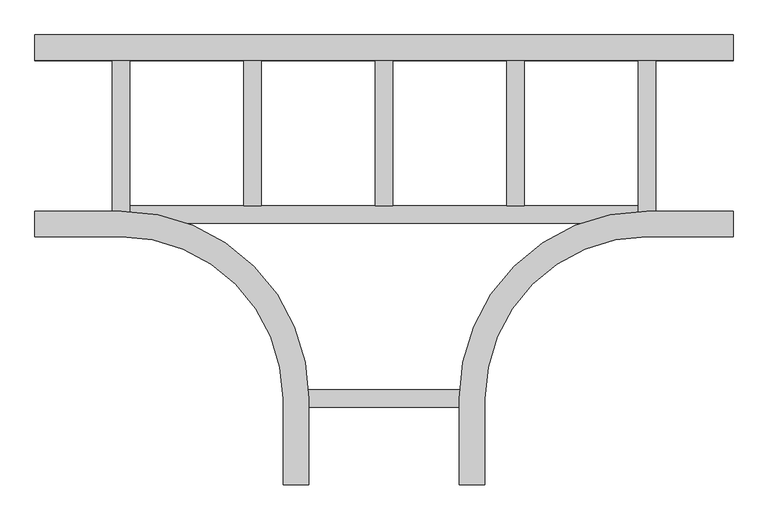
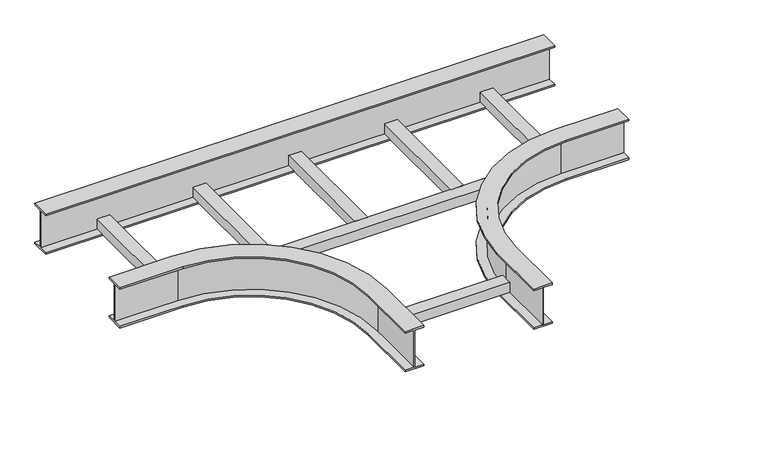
"""IFC4 building model written with IfcOpenShell, lengths in millimetres: cable carrier fitting geometry, TEI_Horizontal Tee-Basortrav : Basortrav TEI-12."""

from ifc_helpers import new_model, si_unit, frame, origin, place, context, project, spatial, polyline, circle_curve, outline, extrude, source, transform, mapped, element, save
from ifc_brep_helpers import plane_surface, cylinder_surface, revolved_surface, advanced_brep


def cable_carrier_fitting_838a4757(model_context):
    return source(origin(), model_context, "Body", "SolidModel", [
        advanced_brep(
        [(-607.2, -175.5115599, 46.8), (-607.2, -175.5115599, 50.8), (-607.2, -131.0115599, 50.8), (-607.2, -131.0115599, 46.8), (-607.2, -152.4, 46.8), (-607.2, -152.4, -46.8), (-607.2, -131.0115599, -46.8), (-607.2, -131.0115599, -50.8), (-607.2, -175.5115599, -50.8), (-607.2, -175.5115599, -46.8), (-607.2, -154.4, -46.8), (-607.2, -154.4, 46.8), (-175.5115599, -607.2, 46.8), (-154.4, -607.2, 46.8), (-154.4, -607.2, -46.8), (-175.5115599, -607.2, -46.8), (-175.5115599, -607.2, -50.8), (-131.0115599, -607.2, -50.8), (-131.0115599, -607.2, -46.8), (-152.4, -607.2, -46.8), (-152.4, -607.2, 46.8), (-131.0115599, -607.2, 46.8), (-131.0115599, -607.2, 50.8), (-175.5115599, -607.2, 50.8), (-457.2, -175.5115599, 46.8), (-457.2, -175.5115599, 50.8), (-175.5115599, -457.2, 50.8), (-131.0115599, -457.2, 50.8), (-457.2, -131.0115599, 50.8), (-457.2, -131.0115599, 46.8), (-131.0115599, -457.2, 46.8), (-152.4, -457.2, 46.8), (-457.2, -152.4, 46.8), (-457.2, -152.4, -46.8), (-152.4, -457.2, -46.8), (-131.0115599, -457.2, -46.8), (-457.2, -131.0115599, -46.8), (-457.2, -131.0115599, -50.8), (-131.0115599, -457.2, -50.8), (-175.5115599, -457.2, -50.8), (-457.2, -175.5115599, -50.8), (-457.2, -175.5115599, -46.8), (-175.5115599, -457.2, -46.8), (-154.4, -457.2, -46.8), (-457.2, -154.4, -46.8), (-457.2, -154.4, 46.8), (-154.4, -457.2, 46.8), (-175.5115599, -457.2, 46.8)],
        [
            (0, 1),
            (1, 2),
            (2, 3),
            (3, 4),
            (4, 5),
            (5, 6),
            (6, 7),
            (7, 8),
            (8, 9),
            (9, 10),
            (10, 11),
            (11, 0),
            (12, 13),
            (13, 14),
            (14, 15),
            (15, 16),
            (16, 17),
            (17, 18),
            (18, 19),
            (19, 20),
            (20, 21),
            (21, 22),
            (22, 23),
            (23, 12),
            (0, 24),
            (24, 25),
            (25, 1),
            (25, 26, circle_curve(frame((-457.2, -457.2, 50.8), z_axis=(0.0, 0.0, -1.0), x_axis=(0.0, 1.0, 0.0)), 281.6884401)),
            (26, 23),
            (22, 27),
            (27, 28, circle_curve(frame((-457.2, -457.2, 50.8), z_axis=(0.0, 0.0, 1.0), x_axis=(0.0, 1.0, 0.0)), 326.1884401)),
            (28, 2),
            (28, 29),
            (29, 3),
            (29, 30, circle_curve(frame((-457.2, -457.2, 46.8), z_axis=(0.0, 0.0, -1.0), x_axis=(0.0, 1.0, 0.0)), 326.1884401)),
            (30, 21),
            (20, 31),
            (31, 32, circle_curve(frame((-457.2, -457.2, 46.8), z_axis=(0.0, 0.0, 1.0), x_axis=(0.0, 1.0, 0.0)), 304.8)),
            (32, 4),
            (32, 33),
            (33, 5),
            (33, 34, circle_curve(frame((-457.2, -457.2, -46.8), z_axis=(0.0, 0.0, -1.0), x_axis=(0.0, 1.0, 0.0)), 304.8)),
            (34, 19),
            (18, 35),
            (35, 36, circle_curve(frame((-457.2, -457.2, -46.8), z_axis=(0.0, 0.0, 1.0), x_axis=(0.0, 1.0, 0.0)), 326.1884401)),
            (36, 6),
            (36, 37),
            (37, 7),
            (37, 38, circle_curve(frame((-457.2, -457.2, -50.8), z_axis=(0.0, 0.0, -1.0), x_axis=(0.0, 1.0, 0.0)), 326.1884401)),
            (38, 17),
            (16, 39),
            (39, 40, circle_curve(frame((-457.2, -457.2, -50.8), z_axis=(0.0, 0.0, 1.0), x_axis=(0.0, 1.0, 0.0)), 281.6884401)),
            (40, 8),
            (40, 41),
            (41, 9),
            (41, 42, circle_curve(frame((-457.2, -457.2, -46.8), z_axis=(0.0, 0.0, -1.0), x_axis=(0.0, 1.0, 0.0)), 281.6884401)),
            (42, 15),
            (14, 43),
            (43, 44, circle_curve(frame((-457.2, -457.2, -46.8), z_axis=(0.0, 0.0, 1.0), x_axis=(0.0, 1.0, 0.0)), 302.8)),
            (44, 10),
            (44, 45),
            (45, 11),
            (45, 46, circle_curve(frame((-457.2, -457.2, 46.8), z_axis=(0.0, 0.0, -1.0), x_axis=(0.0, 1.0, 0.0)), 302.8)),
            (46, 13),
            (12, 47),
            (47, 24, circle_curve(frame((-457.2, -457.2, 46.8), z_axis=(0.0, 0.0, 1.0), x_axis=(0.0, 1.0, 0.0)), 281.6884401)),
            (47, 26),
            (27, 30),
            (31, 34),
            (35, 38),
            (39, 42),
            (43, 46),
        ],
        [
            plane_surface(frame((-607.2, -152.4, 50.8), z_axis=(-1.0, 0.0, 0.0), x_axis=(0.0, 0.0, 1.0))),
            plane_surface(frame((-152.4, -607.2, 50.8), z_axis=(0.0, -1.0, 0.0), x_axis=(0.0, 0.0, 1.0))),
            plane_surface(frame((-607.2, -175.5115599, 46.8), z_axis=(0.0, -1.0, 0.0), x_axis=(1.0, 0.0, 0.0))),
            plane_surface(frame((-607.2, -175.5115599, 50.8), z_axis=(0.0, 0.0, 1.0), x_axis=(1.0, 0.0, 0.0))),
            plane_surface(frame((-607.2, -131.0115599, 50.8), z_axis=(0.0, 1.0, 0.0), x_axis=(1.0, 0.0, 0.0))),
            plane_surface(frame((-607.2, -131.0115599, 46.8), z_axis=(0.0, 0.0, -1.0), x_axis=(1.0, 0.0, 0.0))),
            plane_surface(frame((-607.2, -152.4, 46.8), z_axis=(0.0, 1.0, 0.0), x_axis=(1.0, 0.0, 0.0))),
            plane_surface(frame((-607.2, -152.4, -46.8), z_axis=(0.0, 0.0, 1.0), x_axis=(1.0, 0.0, 0.0))),
            plane_surface(frame((-607.2, -131.0115599, -46.8), z_axis=(0.0, 1.0, 0.0), x_axis=(1.0, 0.0, 0.0))),
            plane_surface(frame((-607.2, -131.0115599, -50.8), z_axis=(0.0, 0.0, -1.0), x_axis=(1.0, 0.0, 0.0))),
            plane_surface(frame((-607.2, -175.5115599, -50.8), z_axis=(0.0, -1.0, 0.0), x_axis=(1.0, 0.0, 0.0))),
            plane_surface(frame((-607.2, -175.5115599, -46.8), z_axis=(0.0, 0.0, 1.0), x_axis=(1.0, 0.0, 0.0))),
            plane_surface(frame((-607.2, -154.4, -46.8), z_axis=(0.0, -1.0, 0.0), x_axis=(1.0, 0.0, 0.0))),
            plane_surface(frame((-607.2, -154.4, 46.8), z_axis=(0.0, 0.0, -1.0), x_axis=(1.0, 0.0, 0.0))),
            revolved_surface(polyline([(-457.2, -175.5115599, 46.8), (-457.2, -175.5115599, 50.8)]), (-457.2, -457.2, 50.8), (0.0, 0.0, -1.0)),
            cylinder_surface(frame((-457.2, -457.2, 50.8), z_axis=(0.0, 0.0, -1.0), x_axis=(0.0, 1.0, 0.0)), 326.1884401),
            cylinder_surface(frame((-457.2, -457.2, 50.8), z_axis=(0.0, 0.0, -1.0), x_axis=(0.0, 1.0, 0.0)), 304.8),
            revolved_surface(polyline([(-457.2, -175.5115599, -50.8), (-457.2, -175.5115599, -46.8)]), (-457.2, -457.2, 50.8), (0.0, 0.0, -1.0)),
            revolved_surface(polyline([(-457.2, -154.39999999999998, -46.8), (-457.2, -154.39999999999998, 46.8)]), (-457.2, -457.2, 50.8), (0.0, 0.0, -1.0)),
            plane_surface(frame((-175.5115599, -457.2, 46.8), z_axis=(-1.0, 0.0, 0.0), x_axis=(0.0, -1.0, 0.0))),
            plane_surface(frame((-131.0115599, -457.2, 50.8), z_axis=(1.0, 0.0, 0.0), x_axis=(0.0, -1.0, 0.0))),
            plane_surface(frame((-152.4, -457.2, 46.8), z_axis=(1.0, 0.0, 0.0), x_axis=(0.0, -1.0, 0.0))),
            plane_surface(frame((-131.0115599, -457.2, -46.8), z_axis=(1.0, 0.0, 0.0), x_axis=(0.0, -1.0, 0.0))),
            plane_surface(frame((-175.5115599, -457.2, -50.8), z_axis=(-1.0, 0.0, 0.0), x_axis=(0.0, -1.0, 0.0))),
            plane_surface(frame((-154.4, -457.2, -46.8), z_axis=(-1.0, 0.0, 0.0), x_axis=(0.0, -1.0, 0.0))),
        ],
        [
            (0, [[1, 2, 3, 4, 5, 6, 7, 8, 9, 10, 11, 12]]),
            (1, [[13, 14, 15, 16, 17, 18, 19, 20, 21, 22, 23, 24]]),
            (2, [[-1, 25, 26, 27]]),
            (3, [[-2, -27, 28, 29, -23, 30, 31, 32]]),
            (4, [[-3, -32, 33, 34]]),
            (5, [[-4, -34, 35, 36, -21, 37, 38, 39]]),
            (6, [[-5, -39, 40, 41]]),
            (7, [[-6, -41, 42, 43, -19, 44, 45, 46]]),
            (8, [[-7, -46, 47, 48]]),
            (9, [[-8, -48, 49, 50, -17, 51, 52, 53]]),
            (10, [[-9, -53, 54, 55]]),
            (11, [[-10, -55, 56, 57, -15, 58, 59, 60]]),
            (12, [[-11, -60, 61, 62]]),
            (13, [[-12, -62, 63, 64, -13, 65, 66, -25]]),
            (14, [[-28, -26, -66, 67]]),
            (15, [[-35, -33, -31, 68]]),
            (16, [[-42, -40, -38, 69]]),
            (15, [[-49, -47, -45, 70]]),
            (17, [[-56, -54, -52, 71]]),
            (18, [[-63, -61, -59, 72]]),
            (19, [[-67, -65, -24, -29]]),
            (20, [[-68, -30, -22, -36]]),
            (21, [[-69, -37, -20, -43]]),
            (22, [[-70, -44, -18, -50]]),
            (23, [[-71, -51, -16, -57]]),
            (24, [[-72, -58, -14, -64]]),
        ],
    ),
        advanced_brep(
        [(175.5115599, -607.2, 46.8), (175.5115599, -607.2, 50.8), (131.0115599, -607.2, 50.8), (131.0115599, -607.2, 46.8), (152.4, -607.2, 46.8), (152.4, -607.2, -46.8), (131.0115599, -607.2, -46.8), (131.0115599, -607.2, -50.8), (175.5115599, -607.2, -50.8), (175.5115599, -607.2, -46.8), (154.4, -607.2, -46.8), (154.4, -607.2, 46.8), (607.2, -175.5115599, 46.8), (607.2, -154.4, 46.8), (607.2, -154.4, -46.8), (607.2, -175.5115599, -46.8), (607.2, -175.5115599, -50.8), (607.2, -131.0115599, -50.8), (607.2, -131.0115599, -46.8), (607.2, -152.4, -46.8), (607.2, -152.4, 46.8), (607.2, -131.0115599, 46.8), (607.2, -131.0115599, 50.8), (607.2, -175.5115599, 50.8), (175.5115599, -457.2, 46.8), (175.5115599, -457.2, 50.8), (457.2, -175.5115599, 50.8), (457.2, -131.0115599, 50.8), (131.0115599, -457.2, 50.8), (131.0115599, -457.2, 46.8), (457.2, -131.0115599, 46.8), (457.2, -152.4, 46.8), (152.4, -457.2, 46.8), (152.4, -457.2, -46.8), (457.2, -152.4, -46.8), (457.2, -131.0115599, -46.8), (131.0115599, -457.2, -46.8), (131.0115599, -457.2, -50.8), (457.2, -131.0115599, -50.8), (457.2, -175.5115599, -50.8), (175.5115599, -457.2, -50.8), (175.5115599, -457.2, -46.8), (457.2, -175.5115599, -46.8), (457.2, -154.4, -46.8), (154.4, -457.2, -46.8), (154.4, -457.2, 46.8), (457.2, -154.4, 46.8), (457.2, -175.5115599, 46.8)],
        [
            (0, 1),
            (1, 2),
            (2, 3),
            (3, 4),
            (4, 5),
            (5, 6),
            (6, 7),
            (7, 8),
            (8, 9),
            (9, 10),
            (10, 11),
            (11, 0),
            (12, 13),
            (13, 14),
            (14, 15),
            (15, 16),
            (16, 17),
            (17, 18),
            (18, 19),
            (19, 20),
            (20, 21),
            (21, 22),
            (22, 23),
            (23, 12),
            (0, 24),
            (24, 25),
            (25, 1),
            (25, 26, circle_curve(frame((457.2, -457.2, 50.8), z_axis=(0.0, 0.0, -1.0), x_axis=(-1.0, 0.0, 0.0)), 281.6884401)),
            (26, 23),
            (22, 27),
            (27, 28, circle_curve(frame((457.2, -457.2, 50.8), z_axis=(0.0, 0.0, 1.0), x_axis=(-1.0, 0.0, 0.0)), 326.1884401)),
            (28, 2),
            (28, 29),
            (29, 3),
            (29, 30, circle_curve(frame((457.2, -457.2, 46.8), z_axis=(0.0, 0.0, -1.0), x_axis=(-1.0, 0.0, 0.0)), 326.1884401)),
            (30, 21),
            (20, 31),
            (31, 32, circle_curve(frame((457.2, -457.2, 46.8), z_axis=(0.0, 0.0, 1.0), x_axis=(-1.0, 0.0, 0.0)), 304.8)),
            (32, 4),
            (32, 33),
            (33, 5),
            (33, 34, circle_curve(frame((457.2, -457.2, -46.8), z_axis=(0.0, 0.0, -1.0), x_axis=(-1.0, 0.0, 0.0)), 304.8)),
            (34, 19),
            (18, 35),
            (35, 36, circle_curve(frame((457.2, -457.2, -46.8), z_axis=(0.0, 0.0, 1.0), x_axis=(-1.0, 0.0, 0.0)), 326.1884401)),
            (36, 6),
            (36, 37),
            (37, 7),
            (37, 38, circle_curve(frame((457.2, -457.2, -50.8), z_axis=(0.0, 0.0, -1.0), x_axis=(-1.0, 0.0, 0.0)), 326.1884401)),
            (38, 17),
            (16, 39),
            (39, 40, circle_curve(frame((457.2, -457.2, -50.8), z_axis=(0.0, 0.0, 1.0), x_axis=(-1.0, 0.0, 0.0)), 281.6884401)),
            (40, 8),
            (40, 41),
            (41, 9),
            (41, 42, circle_curve(frame((457.2, -457.2, -46.8), z_axis=(0.0, 0.0, -1.0), x_axis=(-1.0, 0.0, 0.0)), 281.6884401)),
            (42, 15),
            (14, 43),
            (43, 44, circle_curve(frame((457.2, -457.2, -46.8), z_axis=(0.0, 0.0, 1.0), x_axis=(-1.0, 0.0, 0.0)), 302.8)),
            (44, 10),
            (44, 45),
            (45, 11),
            (45, 46, circle_curve(frame((457.2, -457.2, 46.8), z_axis=(0.0, 0.0, -1.0), x_axis=(-1.0, 0.0, 0.0)), 302.8)),
            (46, 13),
            (12, 47),
            (47, 24, circle_curve(frame((457.2, -457.2, 46.8), z_axis=(0.0, 0.0, 1.0), x_axis=(-1.0, 0.0, 0.0)), 281.6884401)),
            (47, 26),
            (27, 30),
            (31, 34),
            (35, 38),
            (39, 42),
            (43, 46),
        ],
        [
            plane_surface(frame((152.4, -607.2, 50.8), z_axis=(0.0, -1.0, 0.0), x_axis=(0.0, 0.0, 1.0))),
            plane_surface(frame((607.2, -152.4, 50.8), z_axis=(1.0, 0.0, 0.0), x_axis=(0.0, 0.0, 1.0))),
            plane_surface(frame((175.5115599, -607.2, 46.8), z_axis=(1.0, 0.0, 0.0), x_axis=(0.0, 1.0, 0.0))),
            plane_surface(frame((175.5115599, -607.2, 50.8), z_axis=(0.0, 0.0, 1.0), x_axis=(0.0, 1.0, 0.0))),
            plane_surface(frame((131.0115599, -607.2, 50.8), z_axis=(-1.0, 0.0, 0.0), x_axis=(0.0, 1.0, 0.0))),
            plane_surface(frame((131.0115599, -607.2, 46.8), z_axis=(0.0, 0.0, -1.0), x_axis=(0.0, 1.0, 0.0))),
            plane_surface(frame((152.4, -607.2, 46.8), z_axis=(-1.0, 0.0, 0.0), x_axis=(0.0, 1.0, 0.0))),
            plane_surface(frame((152.4, -607.2, -46.8), z_axis=(0.0, 0.0, 1.0), x_axis=(0.0, 1.0, 0.0))),
            plane_surface(frame((131.0115599, -607.2, -46.8), z_axis=(-1.0, 0.0, 0.0), x_axis=(0.0, 1.0, 0.0))),
            plane_surface(frame((131.0115599, -607.2, -50.8), z_axis=(0.0, 0.0, -1.0), x_axis=(0.0, 1.0, 0.0))),
            plane_surface(frame((175.5115599, -607.2, -50.8), z_axis=(1.0, 0.0, 0.0), x_axis=(0.0, 1.0, 0.0))),
            plane_surface(frame((175.5115599, -607.2, -46.8), z_axis=(0.0, 0.0, 1.0), x_axis=(0.0, 1.0, 0.0))),
            plane_surface(frame((154.4, -607.2, -46.8), z_axis=(1.0, 0.0, 0.0), x_axis=(0.0, 1.0, 0.0))),
            plane_surface(frame((154.4, -607.2, 46.8), z_axis=(0.0, 0.0, -1.0), x_axis=(0.0, 1.0, 0.0))),
            revolved_surface(polyline([(175.5115599, -457.2, 46.8), (175.5115599, -457.2, 50.8)]), (457.2, -457.2, 50.8), (0.0, 0.0, -1.0)),
            cylinder_surface(frame((457.2, -457.2, 50.8), z_axis=(0.0, 0.0, -1.0), x_axis=(-1.0, 0.0, 0.0)), 326.1884401),
            cylinder_surface(frame((457.2, -457.2, 50.8), z_axis=(0.0, 0.0, -1.0), x_axis=(-1.0, 0.0, 0.0)), 304.8),
            revolved_surface(polyline([(175.5115599, -457.2, -50.8), (175.5115599, -457.2, -46.8)]), (457.2, -457.2, 50.8), (0.0, 0.0, -1.0)),
            revolved_surface(polyline([(154.39999999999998, -457.2, -46.8), (154.39999999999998, -457.2, 46.8)]), (457.2, -457.2, 50.8), (0.0, 0.0, -1.0)),
            plane_surface(frame((457.2, -175.5115599, 46.8), z_axis=(0.0, -1.0, 0.0), x_axis=(1.0, 0.0, 0.0))),
            plane_surface(frame((457.2, -131.0115599, 50.8), z_axis=(0.0, 1.0, 0.0), x_axis=(1.0, 0.0, 0.0))),
            plane_surface(frame((457.2, -152.4, 46.8), z_axis=(0.0, 1.0, 0.0), x_axis=(1.0, 0.0, 0.0))),
            plane_surface(frame((457.2, -131.0115599, -46.8), z_axis=(0.0, 1.0, 0.0), x_axis=(1.0, 0.0, 0.0))),
            plane_surface(frame((457.2, -175.5115599, -50.8), z_axis=(0.0, -1.0, 0.0), x_axis=(1.0, 0.0, 0.0))),
            plane_surface(frame((457.2, -154.4, -46.8), z_axis=(0.0, -1.0, 0.0), x_axis=(1.0, 0.0, 0.0))),
        ],
        [
            (0, [[1, 2, 3, 4, 5, 6, 7, 8, 9, 10, 11, 12]]),
            (1, [[13, 14, 15, 16, 17, 18, 19, 20, 21, 22, 23, 24]]),
            (2, [[-1, 25, 26, 27]]),
            (3, [[-2, -27, 28, 29, -23, 30, 31, 32]]),
            (4, [[-3, -32, 33, 34]]),
            (5, [[-4, -34, 35, 36, -21, 37, 38, 39]]),
            (6, [[-5, -39, 40, 41]]),
            (7, [[-6, -41, 42, 43, -19, 44, 45, 46]]),
            (8, [[-7, -46, 47, 48]]),
            (9, [[-8, -48, 49, 50, -17, 51, 52, 53]]),
            (10, [[-9, -53, 54, 55]]),
            (11, [[-10, -55, 56, 57, -15, 58, 59, 60]]),
            (12, [[-11, -60, 61, 62]]),
            (13, [[-12, -62, 63, 64, -13, 65, 66, -25]]),
            (14, [[-28, -26, -66, 67]]),
            (15, [[-35, -33, -31, 68]]),
            (16, [[-42, -40, -38, 69]]),
            (15, [[-49, -47, -45, 70]]),
            (17, [[-56, -54, -52, 71]]),
            (18, [[-63, -61, -59, 72]]),
            (19, [[-67, -65, -24, -29]]),
            (20, [[-68, -30, -22, -36]]),
            (21, [[-69, -37, -20, -43]]),
            (22, [[-70, -44, -18, -50]]),
            (23, [[-71, -51, -16, -57]]),
            (24, [[-72, -58, -14, -64]]),
        ],
    ),
        extrude(outline(polyline([(175.5115599, 46.8), (154.4, 46.8), (154.4, -46.8), (175.5115599, -46.8), (175.5115599, -50.8), (131.0115599, -50.8), (131.0115599, -46.8), (152.4, -46.8), (152.4, 46.8), (131.0115599, 46.8), (131.0115599, 50.8), (175.5115599, 50.8), (175.5115599, 46.8)])), frame((-607.2, 0.0, 0.0), z_axis=(1.0, 0.0, 0.0), x_axis=(0.0, 1.0, 0.0)), (0.0, 0.0, 1.0), 1214.4),
        extrude(outline(polyline([(152.4, -472.45), (-152.4, -472.45), (-152.4, -441.95), (152.4, -441.95), (152.4, -472.45)])), frame((0.0, 0.0, -46.8), z_axis=(0.0, 0.0, 1.0), x_axis=(1.0, 0.0, 0.0)), (0.0, 0.0, 1.0), 25.4),
        extrude(outline(polyline([(472.45, 152.4), (472.45, -152.4), (441.95, -152.4), (441.95, 152.4), (472.45, 152.4)])), frame((0.0, 0.0, -46.8), z_axis=(0.0, 0.0, 1.0), x_axis=(1.0, 0.0, 0.0)), (0.0, 0.0, 1.0), 25.4),
        extrude(outline(polyline([(243.85, 152.4), (243.85, -121.9), (213.35, -121.9), (213.35, 152.4), (243.85, 152.4)])), frame((0.0, 0.0, -46.8), z_axis=(0.0, 0.0, 1.0), x_axis=(1.0, 0.0, 0.0)), (0.0, 0.0, 1.0), 25.4),
        extrude(outline(polyline([(15.25, 152.4), (15.25, -121.9), (-15.25, -121.9), (-15.25, 152.4), (15.25, 152.4)])), frame((0.0, 0.0, -46.8), z_axis=(0.0, 0.0, 1.0), x_axis=(1.0, 0.0, 0.0)), (0.0, 0.0, 1.0), 25.4),
        extrude(outline(polyline([(-213.35, 152.4), (-213.35, -121.9), (-243.85, -121.9), (-243.85, 152.4), (-213.35, 152.4)])), frame((0.0, 0.0, -46.8), z_axis=(0.0, 0.0, 1.0), x_axis=(1.0, 0.0, 0.0)), (0.0, 0.0, 1.0), 25.4),
        extrude(outline(polyline([(-441.95, 152.4), (-441.95, -152.4), (-472.45, -152.4), (-472.45, 152.4), (-441.95, 152.4)])), frame((0.0, 0.0, -46.8), z_axis=(0.0, 0.0, 1.0), x_axis=(1.0, 0.0, 0.0)), (0.0, 0.0, 1.0), 25.4),
        extrude(outline(polyline([(441.95, -152.4), (-441.95, -152.4), (-441.95, -121.9), (441.95, -121.9), (441.95, -152.4)])), frame((0.0, 0.0, -46.8), z_axis=(0.0, 0.0, 1.0), x_axis=(1.0, 0.0, 0.0)), (0.0, 0.0, 1.0), 25.4),
    ])


if __name__ == "__main__":
    model = new_model("IFC4")
    model_context = context("Model", 3, world=origin())
    ifc_project = project(units=[si_unit("LENGTHUNIT", "METRE", prefix="MILLI")], contexts=[model_context])
    site = spatial("IfcSite", under=ifc_project)
    building = spatial("IfcBuilding", under=site)
    placement = place(None, origin())
    cable_carrier_fitting_shape = cable_carrier_fitting_838a4757(model_context)
    element("IfcCableCarrierFitting", 1, ObjectType="TEI_Horizontal Tee-Basortrav : Basortrav TEI-12", at=placement, inside=building, context=model_context, shape_type="MappedRepresentation", body=[
        mapped(cable_carrier_fitting_shape, transform((0.0, 0.0, 0.0), x_axis=(1.0, 0.0, 0.0), y_axis=(0.0, 1.0, 0.0), z_axis=(0.0, 0.0, 1.0))),
    ])
    save(model, "model.ifc")
